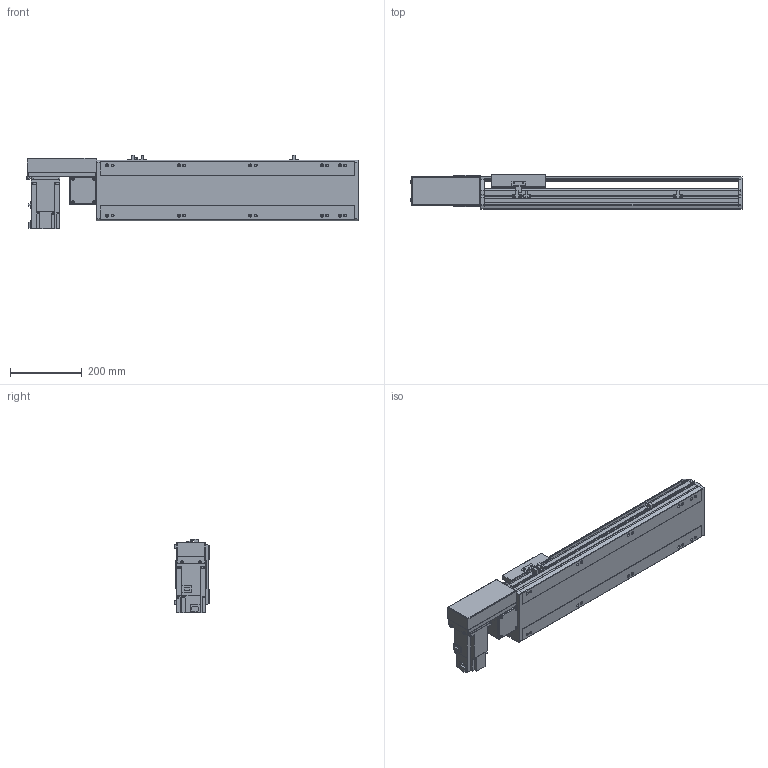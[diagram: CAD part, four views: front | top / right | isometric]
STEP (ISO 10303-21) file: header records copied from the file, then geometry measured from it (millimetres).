
FILE_DESCRIPTION(/* description */ ('STEP AP214'),/* implementation_level */ '2;1');
FILE_NAME(/* name */ 'PBS170-P40-S450-R-T75-C1-N(0)',/* time_stamp */ '2022-06-07T09:29:08+02:00',/* author */ ('License CC BY-ND 4.0'),/* organization */ ('CADENAS'),/* preprocessor_version */ 'ST-DEVELOPER v18.102',/* originating_system */ 'PARTsolutions',/* authorisation */ ' ');
FILE_SCHEMA (('AUTOMOTIVE_DESIGN {1 0 10303 214 3 1 1}'));
Length unit declared in the file: millimetre
Products named in the file (7): PBS170-P40-S450-R-T75-C1-N(0); PBS170_sensor; PBS170_plant; PBS170_sliser; T75-p1; PBS170T-R_motors; PBS170-S450()_body
Assembly tree (8 placements, depth 2):
  PBS170-P40-S450-R-T75-C1-N(0)
    PBS170_sensor  x3
    PBS170_plant
    PBS170_sliser
    T75-p1
    PBS170T-R_motors
    PBS170-S450()_body
Bounding box: 928 x 97 x 205.3 mm (x, y, z)
Volume: 7068767.2 mm3; surface area: 968427.6 mm2
Topology: 8 solids, 8 shells, 1034 faces, 2755 edges, 1796 vertices
Faces by surface type: plane 669, cylinder 315, cone 40, sphere 8, torus 2
Full cylindrical faces by diameter (mm): 3.242 x4, 4 x2, 4.4 x4, 4.5 x6, 4.917 x4, 6 x9, 6.647 x18, 7 x2, 7.5 x4, 8 x8, 8.5 x10, 10 x4, 10.5 x10, 11 x2, 30 x2, 40 x1, 70 x1
Entity records: 29744 total; most frequent: CARTESIAN_POINT 5377, DIRECTION 5090, ORIENTED_EDGE 4848, EDGE_CURVE 2424, AXIS2_PLACEMENT_3D 1747, VERTEX_POINT 1658, LINE 1596, VECTOR 1596
